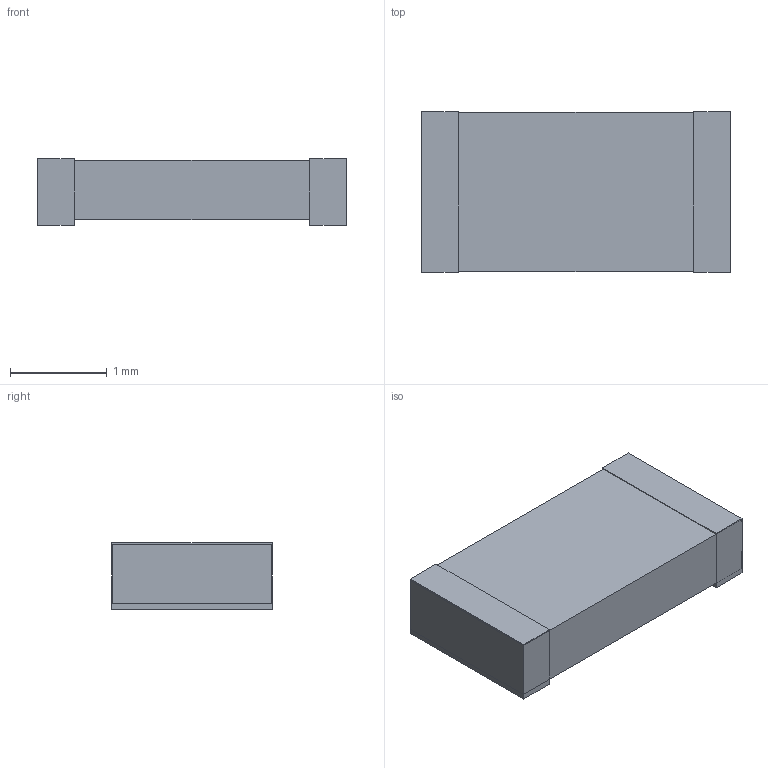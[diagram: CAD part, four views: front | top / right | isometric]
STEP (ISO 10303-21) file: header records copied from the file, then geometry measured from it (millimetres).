
FILE_DESCRIPTION(('FreeCAD Model'),'2;1');
FILE_NAME('Open CASCADE Shape Model','2026-09-23T12:07:01',('FreeCAD'),( 'FreeCAD'),'Open CASCADE STEP processor 7.8','FreeCAD','Unknown');
FILE_SCHEMA(('AUTOMOTIVE_DESIGN { 1 0 10303 214 1 1 1 1 }'));
Length unit declared in the file: millimetre
Products named in the file (1): Open CASCADE STEP translator 7.8 3
Bounding box: 3.2 x 1.67 x 0.69 mm (x, y, z)
Surface area: 24.7 mm2
Topology: 3 solids, 3 shells, 18 faces, 36 edges, 24 vertices
Faces by surface type: plane 18
Entity records: 466 total; most frequent: CARTESIAN_POINT 79, DIRECTION 74, ORIENTED_EDGE 72, EDGE_CURVE 36, LINE 36, VECTOR 36, VERTEX_POINT 24, AXIS2_PLACEMENT_3D 19
